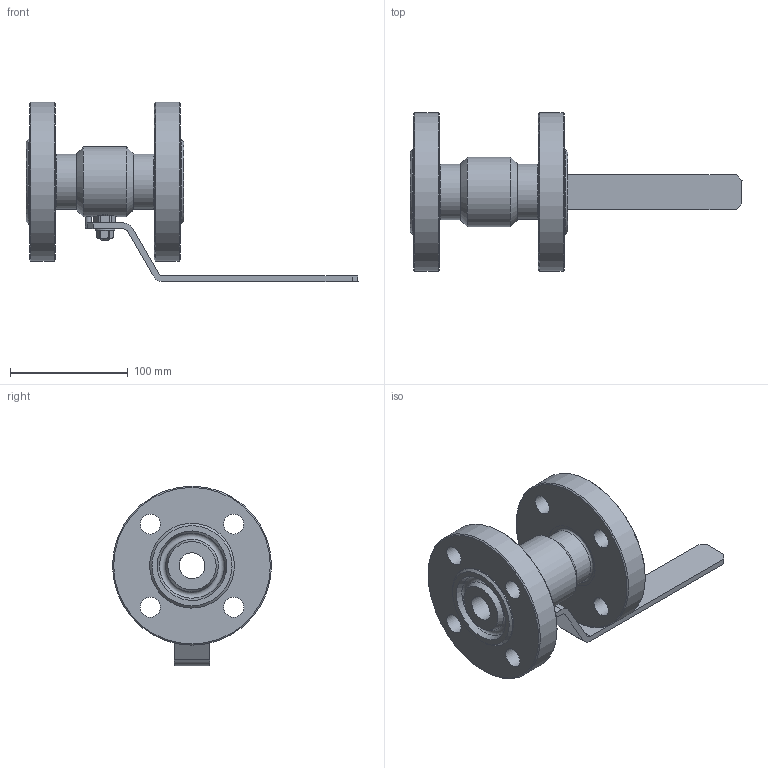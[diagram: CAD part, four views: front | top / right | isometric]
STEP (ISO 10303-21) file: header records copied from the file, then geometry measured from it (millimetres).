
FILE_DESCRIPTION(('STEP AP203'), '1');
FILE_NAME('ZARD 025.080.27.P.stp', '2013-12-05T13:04:47', ('User'), ('Computer'), 'ASCON STEP Converter 1.3', 'Kompas 3D', '');
FILE_SCHEMA(('CONFIG_CONTROL_DESIGN','SUPPORT_RESOURCE_SCHEMA'));
Length unit declared in the file: millimetre
Products named in the file (1): 211
Bounding box: 282 x 135 x 152.5 mm (x, y, z)
Volume: 760663.7 mm3; surface area: 127385.8 mm2
Topology: 1 solids, 3 shells, 178 faces, 396 edges, 245 vertices
Faces by surface type: plane 90, cylinder 51, cone 32, torus 5
Full cylindrical faces by diameter (mm): 5 x2, 8 x1, 10.7 x1, 10.917 x1, 12 x1, 12.1 x1, 17 x8, 19.8 x1, 20 x2, 22 x2, 38.4 x1, 47 x2, 59.3 x1, 72 x2, 135 x2
Entity records: 5843 total; most frequent: CARTESIAN_POINT 1684, DIRECTION 898, ORIENTED_EDGE 792, EDGE_CURVE 396, AXIS2_PLACEMENT_3D 351, VERTEX_POINT 245, EDGE_LOOP 219, LINE 196
